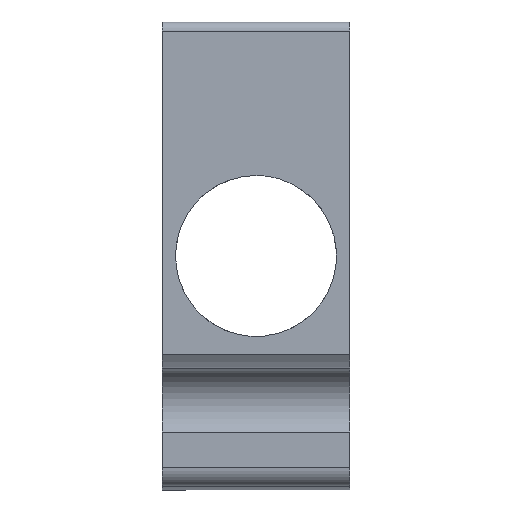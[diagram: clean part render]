
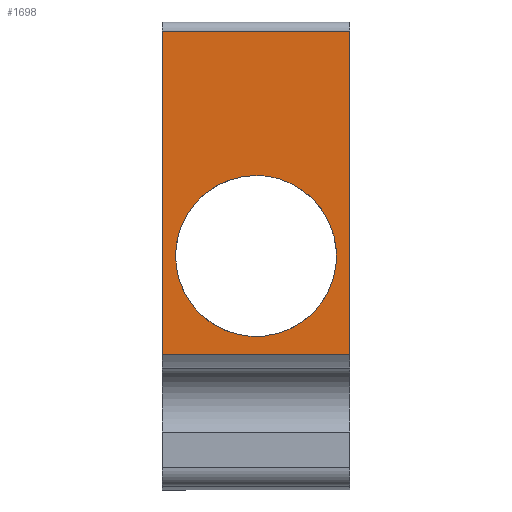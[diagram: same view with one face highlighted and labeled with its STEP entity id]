
A CAD part, front view. The second image highlights one B-rep face of the part: STEP entity #1698.
In plain terms, the highlighted planar face has unit normal (0, -1, 0).
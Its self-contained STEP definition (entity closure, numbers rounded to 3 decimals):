
#133=LINE('',#2685,#291);
#142=LINE('',#2731,#300);
#151=LINE('',#2759,#309);
#174=LINE('',#2863,#332);
#291=VECTOR('',#2142,17.257);
#300=VECTOR('',#2185,17.257);
#309=VECTOR('',#2208,10.);
#332=VECTOR('',#2283,10.);
#388=PLANE('',#1843);
#441=FACE_BOUND('',#641,.T.);
#527=FACE_OUTER_BOUND('',#640,.T.);
#640=EDGE_LOOP('',(#1493,#1494,#1495,#1496));
#641=EDGE_LOOP('',(#1497));
#696=CIRCLE('',#1834,4.3);
#817=VERTEX_POINT('',#2682);
#818=VERTEX_POINT('',#2684);
#837=VERTEX_POINT('',#2728);
#838=VERTEX_POINT('',#2730);
#856=VERTEX_POINT('',#2816);
#1009=EDGE_CURVE('',#817,#818,#133,.T.);
#1032=EDGE_CURVE('',#837,#838,#142,.T.);
#1047=EDGE_CURVE('',#838,#817,#151,.T.);
#1068=EDGE_CURVE('',#856,#856,#696,.T.);
#1076=EDGE_CURVE('',#837,#818,#174,.T.);
#1493=ORIENTED_EDGE('',*,*,#1047,.F.);
#1494=ORIENTED_EDGE('',*,*,#1032,.F.);
#1495=ORIENTED_EDGE('',*,*,#1076,.T.);
#1496=ORIENTED_EDGE('',*,*,#1009,.F.);
#1497=ORIENTED_EDGE('',*,*,#1068,.T.);
#1698=ADVANCED_FACE('',(#527,#441),#388,.T.);
#1834=AXIS2_PLACEMENT_3D('',#2817,#2259,#2260);
#1843=AXIS2_PLACEMENT_3D('',#2864,#2284,#2285);
#2142=DIRECTION('',(0.,0.,-1.));
#2185=DIRECTION('',(0.,0.,1.));
#2208=DIRECTION('',(1.,0.,0.));
#2259=DIRECTION('center_axis',(0.,1.,0.));
#2260=DIRECTION('ref_axis',(0.,0.,
-1.));
#2283=DIRECTION('',(1.,0.,0.));
#2284=DIRECTION('center_axis',(0.,-1.,0.));
#2285=DIRECTION('ref_axis',(0.,0.,-1.));
#2682=CARTESIAN_POINT('',(-24.185,-38.169,15.516));
#2684=CARTESIAN_POINT('',(-24.185,-38.169,-1.741));
#2685=CARTESIAN_POINT('',(-24.185,-38.169,-8.984));
#2728=CARTESIAN_POINT('',(-34.185,-38.169,-1.741));
#2730=CARTESIAN_POINT('',(-34.185,-38.169,15.516));
#2731=CARTESIAN_POINT('',(-34.185,-38.169,-8.984));
#2759=CARTESIAN_POINT('',(-29.185,-38.169,15.516));
#2816=CARTESIAN_POINT('',(-29.185,-38.169,7.816));
#2817=CARTESIAN_POINT('Origin',(-29.185,-38.169,3.516));
#2863=CARTESIAN_POINT('',(-24.185,-38.169,-1.741));
#2864=CARTESIAN_POINT('Origin',(-29.185,-38.169,16.016));
